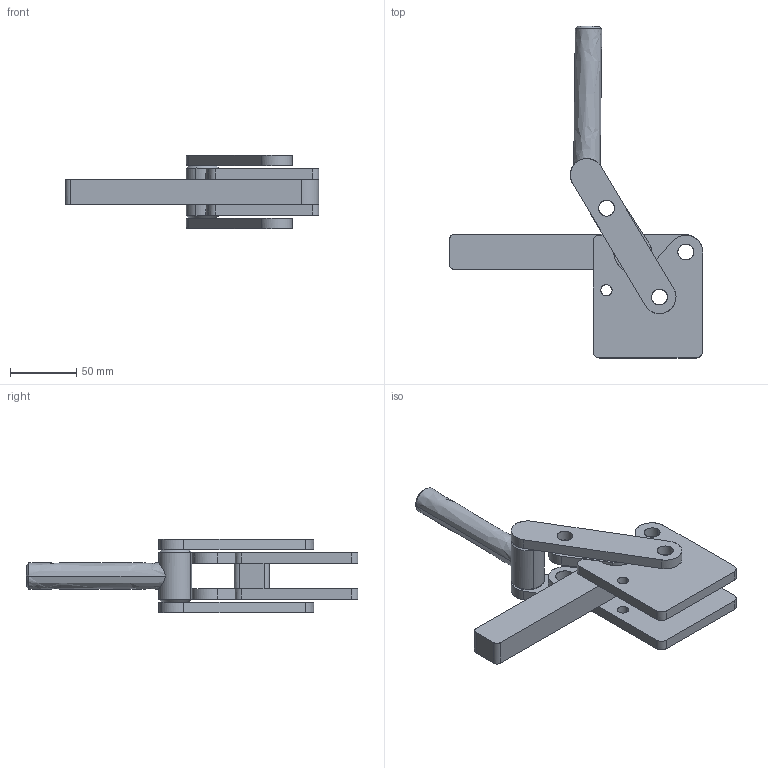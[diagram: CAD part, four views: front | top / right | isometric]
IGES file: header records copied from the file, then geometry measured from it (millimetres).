
Start section: Comment
Global section: file name: 75048.igs; native system:  By Spatial Corp.; preprocessor: XPlus PS/IGES 3.0; author: Author; organization: Title; date: 20050217.133034; units: inch
Bounding box: 191.11 x 250.41 x 55.5 mm (x, y, z)
Surface area: 88847.1 mm2 (no closed solid volume)
Topology: 0 solids, 0 shells, 111 faces, 546 edges, 546 vertices
Faces by surface type: revolution 71, extrusion 40
